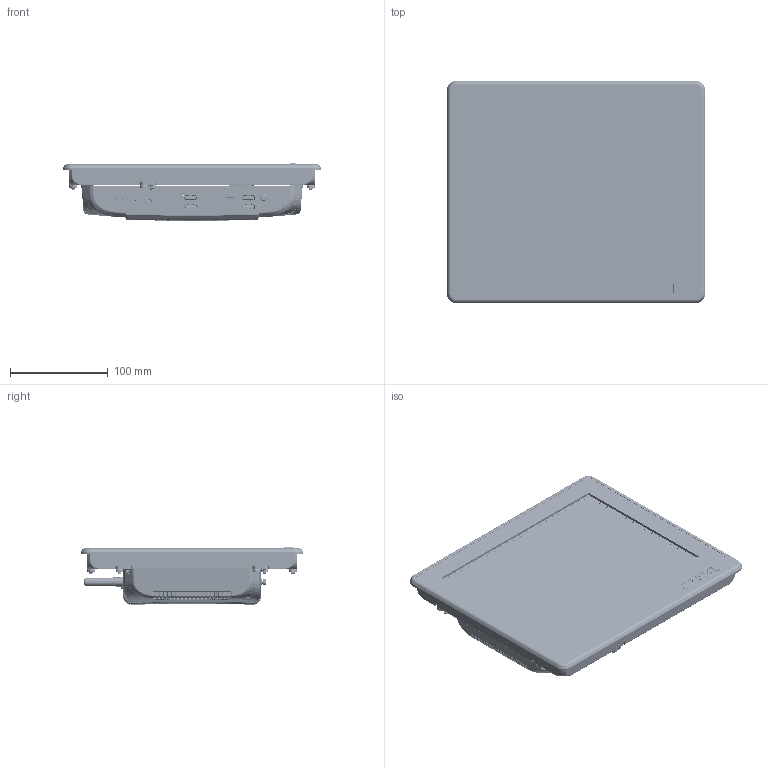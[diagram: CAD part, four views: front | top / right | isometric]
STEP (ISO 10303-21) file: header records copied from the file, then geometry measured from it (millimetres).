
FILE_DESCRIPTION (( 'STEP AP214' ), '1' );
FILE_NAME ('104.STEP', '2024-04-23T10:08:15', ( '' ), ( '' ), 'SwSTEP 2.0', 'SolidWorks 2018', '' );
FILE_SCHEMA (( 'AUTOMOTIVE_DESIGN' ));
Length unit declared in the file: millimetre
Products named in the file (1): 104
Bounding box: 264 x 227.5 x 58.5 mm (x, y, z)
Surface area: 484513.6 mm2 (no closed solid volume)
Topology: 0 solids, 288 shells, 11662 faces, 29749 edges, 18476 vertices
Faces by surface type: plane 5136, cylinder 3224, bspline 2164, torus 625, sphere 270, cone 243
Entity records: 602438 total; most frequent: CARTESIAN_POINT 212808, ORIENTED_EDGE 58678, DIRECTION 46852, EDGE_CURVE 29344, VERTEX_POINT 18474, AXIS2_PLACEMENT_3D 15825, LINE 15202, VECTOR 15202
